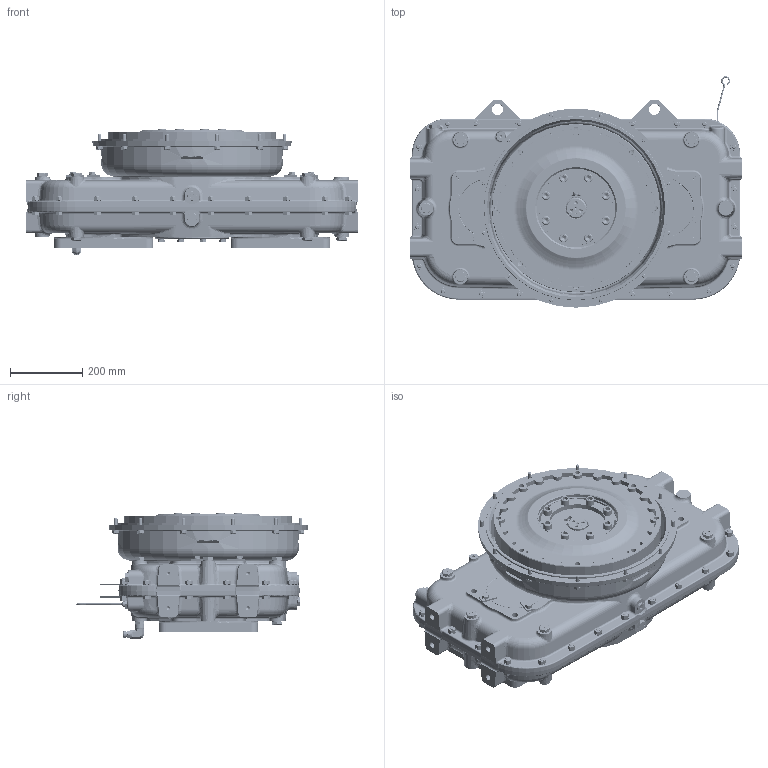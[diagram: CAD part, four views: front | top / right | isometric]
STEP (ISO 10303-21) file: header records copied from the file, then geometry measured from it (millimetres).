
FILE_DESCRIPTION (( 'STEP AP214' ), '1' );
FILE_NAME ('1028877B.STEP', '2014-10-17T13:39:19', ( '' ), ( '' ), 'SwSTEP 2.0', 'SolidWorks 2007', '' );
FILE_SCHEMA (( 'AUTOMOTIVE_DESIGN' ));
Length unit declared in the file: millimetre
Products named in the file (15): ITam270-006_rev00-installation; ITam270-005_rev00-installation; ITam270-003_rev00-installation; ITam270-001_rev01-installation; ITB01400000_rev01-installation; 1028877B; ITam270-002_rev00-installation; IT2021490_rev00-installation; IT4648062_rev00-installation; ITam270-007_rev00-installation; IT1049014_rev00-installation; IT1071117_rev00-installation; ITam270-012_rev00-installation; ITam270-008_rev00-installation; ITam270-014_rev00-installation
Assembly tree (17 placements, depth 2):
  1028877B
    IT1071117_rev00-installation
    IT2021490_rev00-installation  x2
    ITam270-012_rev00-installation  x2
    ITam270-006_rev00-installation
    ITam270-005_rev00-installation
    ITam270-001_rev01-installation
    IT4648062_rev00-installation
    ITB01400000_rev01-installation
    ITam270-014_rev00-installation
    ITam270-003_rev00-installation
    IT1049014_rev00-installation  x2
    ITam270-002_rev00-installation
    ITam270-007_rev00-installation
    ITam270-008_rev00-installation
Bounding box: 920 x 641.5 x 350.2 mm (x, y, z)
Volume: 21009834.6 mm3; surface area: 6190290.7 mm2
Topology: 99 solids, 235 shells, 11602 faces, 29753 edges, 19018 vertices
Faces by surface type: cylinder 4191, plane 4072, bspline 1245, cone 1227, torus 855, sphere 12
Entity records: 496970 total; most frequent: CARTESIAN_POINT 146186, ORIENTED_EDGE 50798, DIRECTION 48037, EDGE_CURVE 25404, AXIS2_PLACEMENT_3D 18606, VERTEX_POINT 16316, EDGE_LOOP 11153, VECTOR 10825
